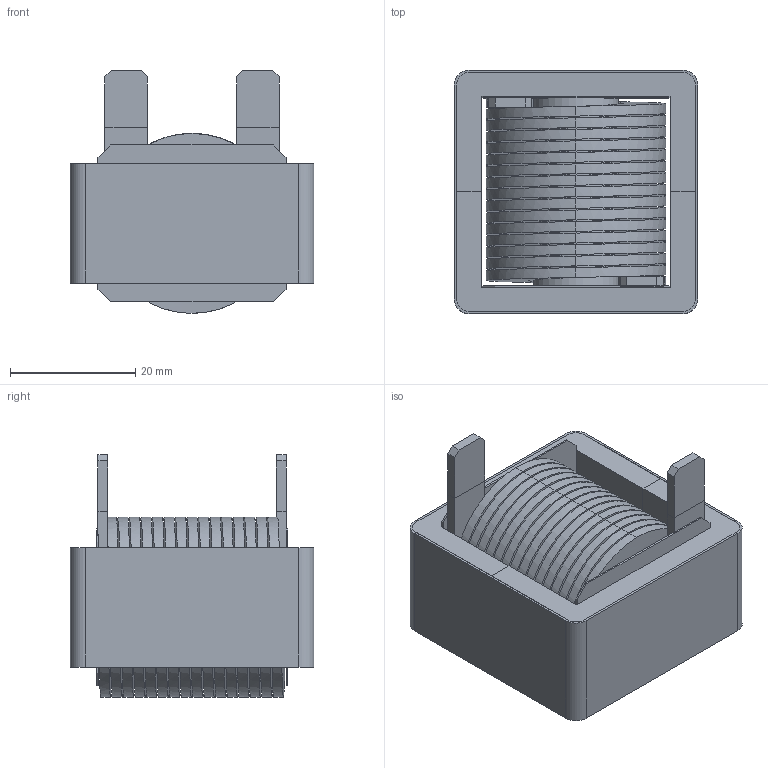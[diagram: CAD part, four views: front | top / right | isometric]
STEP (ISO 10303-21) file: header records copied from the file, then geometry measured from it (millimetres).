
FILE_DESCRIPTION (( 'STEP AP214' ), '1' );
FILE_NAME ('E70340-013 REV.C2.STEP', '2021-07-29T11:05:16', ( '' ), ( '' ), 'SwSTEP 2.0', 'SolidWorks 2015', '' );
FILE_SCHEMA (( 'AUTOMOTIVE_DESIGN' ));
Length unit declared in the file: millimetre
Products named in the file (6): WRAPPER; CENTER MYLAR; SIDE MYLAR; E CORE; HELICAL COIL; E70340-013 REV.C2
Assembly tree (7 placements, depth 2):
  E70340-013 REV.C2
    HELICAL COIL
    E CORE  x2
    SIDE MYLAR  x2
    CENTER MYLAR
    WRAPPER
Bounding box: 38.86 x 38.88 x 38.7 mm (x, y, z)
Volume: 28205.1 mm3; surface area: 37246.8 mm2
Topology: 9 solids, 9 shells, 360 faces, 962 edges, 636 vertices
Faces by surface type: plane 203, cylinder 92, bspline 65
Entity records: 18158 total; most frequent: CARTESIAN_POINT 8692, ORIENTED_EDGE 1780, DIRECTION 1234, EDGE_CURVE 890, VERTEX_POINT 588, VECTOR 574, LINE 574, EDGE_LOOP 356
